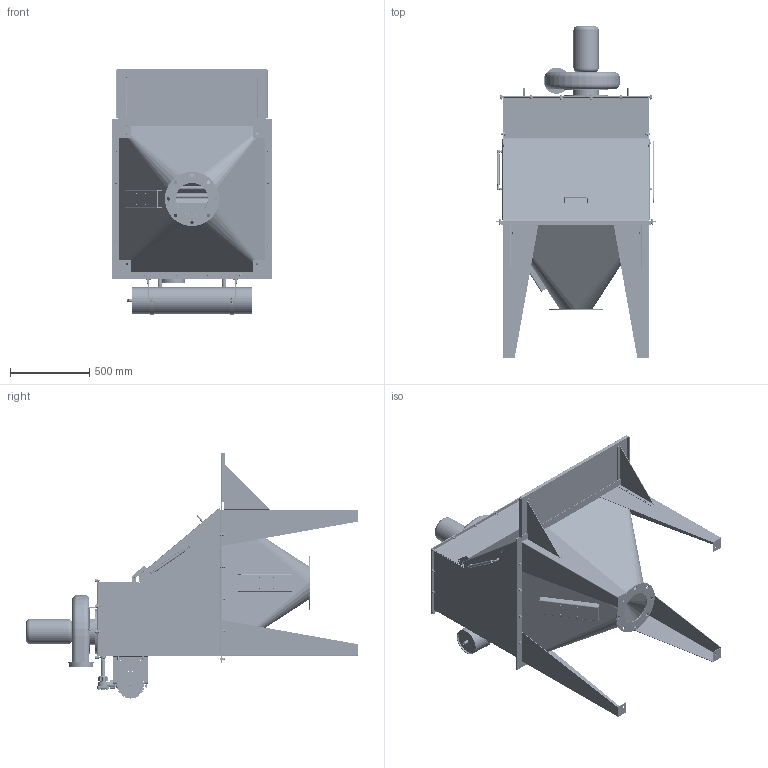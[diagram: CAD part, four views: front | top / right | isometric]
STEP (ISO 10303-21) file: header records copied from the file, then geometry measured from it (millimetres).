
FILE_DESCRIPTION(/* description */ ('BagBreak 400 DF'),/* implementation_level */ '2;1');
FILE_NAME(/* name */ 'Z:\CUSTOMER ORDERS\B\Black Gold Farms\Inventor\005688- BagBreak 400 DF.stp',/* time_stamp */ '2020-05-20T13:35:47-05:00',/* author */ ('Rwest'),/* organization */ (''),/* preprocessor_version */ 'ST-DEVELOPER v17',/* originating_system */ 'Autodesk Inventor 2019',/* authorisation */ '');
FILE_SCHEMA (('AUTOMOTIVE_DESIGN { 1 0 10303 214 3 1 1 }'));
Products named in the file (84): 005688; 003411; Hood 01; Hood 02; Hood 02_1; Hood 04; Hood 05; Hood 06; Hood 07; Hood 09; Coupling; Hood 08; 003413; Grate 01; Grate 02; Grate 03; Grate 04; 003415; Lid 01; Lid 02; Lid 03; 003419; Cover 01; 003417; Cover 02; Lid 04; Cover 03; Cover 04; 003423; Tank 01; Tank 03; Tank 04; Tank 05; Tank 06; Tank 07; Hood 11; ANSI B18.22.1 - 3/8 - wide - Type A; ANSI B18.22.1 - 5/16 - narrow - Type A; ASME B18.21.1 - 3/8; ASME B18.21.1 - 5/16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
Assembly tree (280 placements, depth 3):
  005688
    003411
      Hood 01
      Hood 02
      Hood 02_1
      Hood 04
      Hood 05  x2
      Hood 06
      Hood 07
      Hood 09  x4
      Lid 02  x2
      Coupling  x2
      Hood 08  x4
    003413
      Grate 01
      Grate 02  x2
      Grate 03  x4
      Grate 04  x9
    003415
      Lid 01
      Lid 02  x2
      Lid 03  x2
      Lid 04
    003419
      Cover 01
      Lid 04  x2
    003417
      Cover 02
      Lid 04  x2
      Cover 03  x4
      Cover 04  x4
    003423
      Tank 01
      9157K740  x2
      Tank 03
      Tank 04
      Tank 05
      Tank 06  x2
      Tank 07  x2
      Hood 11  x2
      ANSI B18.22.1 - 3/8 - wide - Type A  x8
      ANSI B18.22.1 - 5/16 - narrow - Type A  x8
      ASME B18.21.1 - 3/8  x4
      ASME B18.21.1 - 5/16  x4
      ANSI B18.2.2 - 3/8 - 16  x4
      ANSI B18.2.2 - 5/16 - 18  x4
      ANSI/ASME B18.2.1 - 3/8-16 UNC - 1.25  x4
      ANSI/ASME B18.2.1 - 5/16-18 UNC - 1.25  x4
      3_8 Fitting  Coupling
      4464K474   x2
    4830K199  x2
    9157K950  x2
    4464K15  x2
    Filter Mount  x2
    P 148646-016-340  x2
    PB8
    6in Stroke 
      Ball Joint  x2
      Ball Joint 02  x2
      Piston 01
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Bounding box: 1016 x 2100.13 x 1551.1 mm (x, y, z)
Volume: 70665863.5 mm3; surface area: 22561904.1 mm2
Topology: 271 solids, 275 shells, 6279 faces, 15026 edges, 9655 vertices
Faces by surface type: plane 3450, cylinder 1447, cone 906, torus 272, bspline 166, sphere 38
Full cylindrical faces by diameter (mm): 0.051 x4, 3.2 x4, 3.5 x8, 4.978 x4, 6.35 x8, 6.401 x22, 7.798 x16, 7.8 x4, 7.874 x1, 7.938 x32, 8.128 x1, 8.179 x8, 8.23 x4, 8.738 x44, 8.763 x2, 9.525 x72, 9.855 x4, 10.1 x2, 10.2 x2, 10.312 x24, 10.319 x8, 10.795 x18, 11.112 x44, 11.125 x8, 12.144 x12, 12.522 x1, 12.696 x1, 12.7 x26, 13.208 x4, 14.275 x16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
Entity records: 120251 total; most frequent: CARTESIAN_POINT 58034, DIRECTION 12577, ORIENTED_EDGE 12000, EDGE_CURVE 6000, AXIS2_PLACEMENT_3D 4719, VERTEX_POINT 3913, LINE 3139, VECTOR 3139
